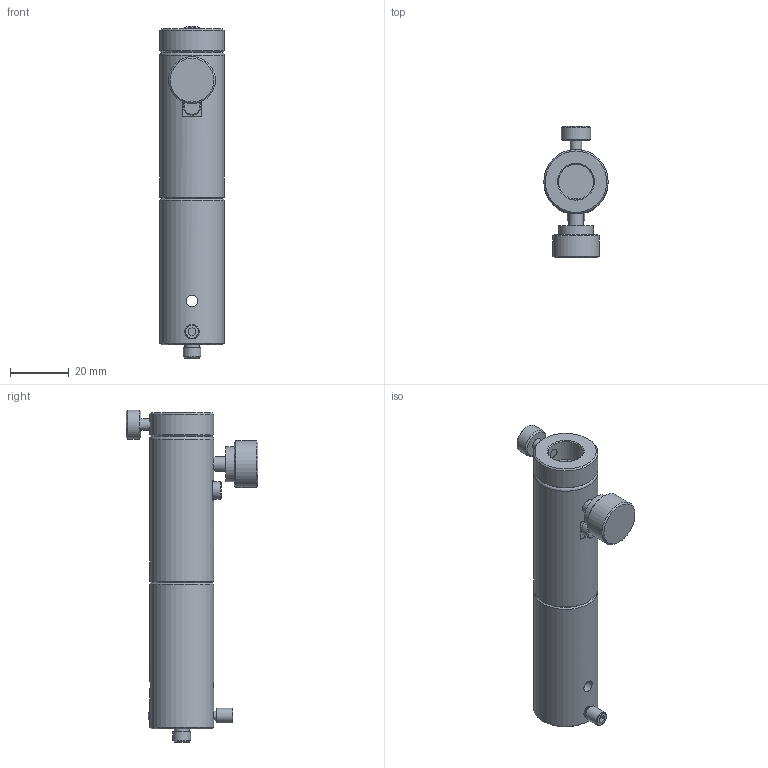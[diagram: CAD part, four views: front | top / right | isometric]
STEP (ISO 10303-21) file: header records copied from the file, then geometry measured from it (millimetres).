
FILE_DESCRIPTION(/* description */ (''),/* implementation_level */ '2;1');
FILE_NAME(/* name */ 'Y:\2_OpticalHard\03_Bases\BRS\BRS-12-□□-M6\BRS-12-100-M6\WEBデータ\BRS-12-100-M6.stp',/* time_stamp */ '2022-09-14T14:27:54+09:00',/* author */ ('e.nonaka'),/* organization */ (''),/* preprocessor_version */ 'ST-DEVELOPER v18.1',/* originating_system */ 'Autodesk Inventor 2021',/* authorisation */ '');
FILE_SCHEMA (('AUTOMOTIVE_DESIGN { 1 0 10303 214 3 1 1 }'));
Length unit declared in the file: millimetre
Products named in the file (1): BRS12100M6-M02-22001-TS01
Bounding box: 22 x 45 x 113.5 mm (x, y, z)
Volume: 30159.4 mm3; surface area: 14150.4 mm2
Topology: 1 solids, 1 shells, 83 faces, 170 edges, 108 vertices
Faces by surface type: plane 32, cylinder 31, cone 18, sphere 1, torus 1
Full cylindrical faces by diameter (mm): 3 x1, 4 x3, 4.134 x1, 5 x3, 6 x2, 10 x1, 12 x2, 14 x1, 16 x1, 17 x1, 22 x3
Entity records: 2675 total; most frequent: CARTESIAN_POINT 756, DIRECTION 390, ORIENTED_EDGE 340, EDGE_CURVE 170, AXIS2_PLACEMENT_3D 164, VERTEX_POINT 108, EDGE_LOOP 106, STYLED_ITEM 84
